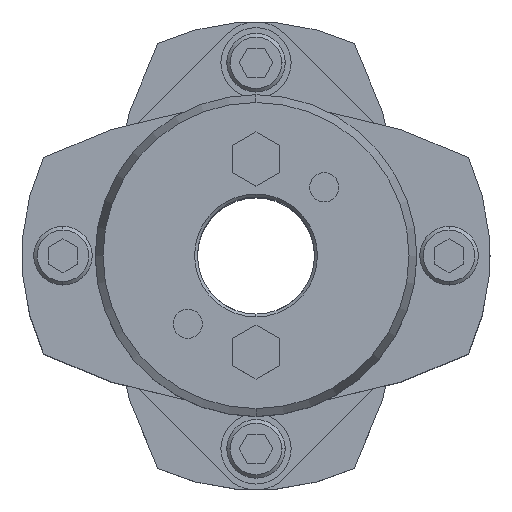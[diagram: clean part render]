
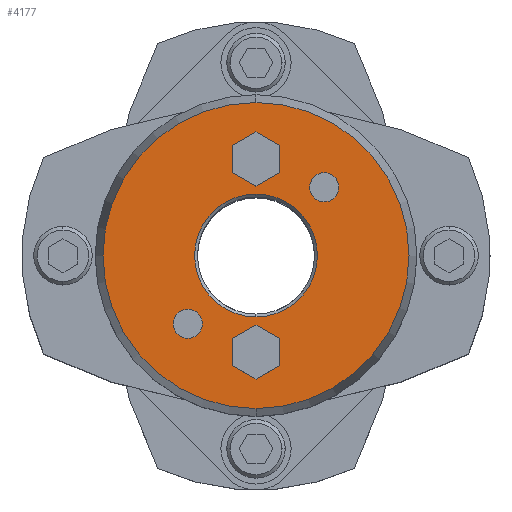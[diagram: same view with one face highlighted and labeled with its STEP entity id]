
A CAD part, top view. The second image highlights one B-rep face of the part: STEP entity #4177.
In plain terms, the highlighted planar face has unit normal (0, 0, 1).
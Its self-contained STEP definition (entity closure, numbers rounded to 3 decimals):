
#2291=CARTESIAN_POINT('',(0.,10.5,45.25));
#2292=VERTEX_POINT('',#2291);
#2308=CARTESIAN_POINT('',(0.,-10.5,45.25));
#2309=VERTEX_POINT('',#2308);
#2316=CARTESIAN_POINT('',(0.,0.,45.25));
#2317=DIRECTION('',(0.0,0.0,1.0));
#2318=DIRECTION('',(0.,1.0,0.0));
#2319=AXIS2_PLACEMENT_3D('',#2316,#2317,#2318);
#2320=CIRCLE('',#2319,10.5);
#2321=EDGE_CURVE('',#2309,#2292,#2320,.T.);
#2479=CARTESIAN_POINT('',(0.,-26.16,45.25));
#2480=VERTEX_POINT('',#2479);
#2487=CARTESIAN_POINT('',(0.,26.16,45.25));
#2488=VERTEX_POINT('',#2487);
#2489=CARTESIAN_POINT('',(0.,0.,45.25));
#2490=DIRECTION('',(0.0,0.0,-1.0));
#2491=DIRECTION('',(0.,-1.0,0.0));
#2492=AXIS2_PLACEMENT_3D('',#2489,#2490,#2491);
#2493=CIRCLE('',#2492,26.16);
#2494=EDGE_CURVE('',#2480,#2488,#2493,.T.);
#2589=CARTESIAN_POINT('',(11.667,14.167,45.25));
#2590=VERTEX_POINT('',#2589);
#2606=CARTESIAN_POINT('',(11.667,9.167,45.25));
#2607=VERTEX_POINT('',#2606);
#2614=CARTESIAN_POINT('',(11.667,11.667,45.25));
#2615=DIRECTION('',(0.0,0.0,-1.0));
#2616=DIRECTION('',(0.,1.0,0.0));
#2617=AXIS2_PLACEMENT_3D('',#2614,#2615,#2616);
#2618=CIRCLE('',#2617,2.5);
#2619=EDGE_CURVE('',#2590,#2607,#2618,.T.);
#2631=CARTESIAN_POINT('',(-11.667,-9.167,45.25));
#2632=VERTEX_POINT('',#2631);
#2648=CARTESIAN_POINT('',(-11.667,-14.167,45.25));
#2649=VERTEX_POINT('',#2648);
#2656=CARTESIAN_POINT('',(-11.667,-11.667,45.25));
#2657=DIRECTION('',(0.0,0.0,-1.0));
#2658=DIRECTION('',(0.,1.0,0.0));
#2659=AXIS2_PLACEMENT_3D('',#2656,#2657,#2658);
#2660=CIRCLE('',#2659,2.5);
#2661=EDGE_CURVE('',#2632,#2649,#2660,.T.);
#3412=CARTESIAN_POINT('',(-11.667,-11.667,45.25));
#3413=DIRECTION('',(0.0,0.0,-1.0));
#3414=DIRECTION('',(0.,1.0,0.0));
#3415=AXIS2_PLACEMENT_3D('',#3412,#3413,#3414);
#3416=CIRCLE('',#3415,2.5);
#3417=EDGE_CURVE('',#2649,#2632,#3416,.T.);
#3446=CARTESIAN_POINT('',(11.667,11.667,45.25));
#3447=DIRECTION('',(0.0,0.0,-1.0));
#3448=DIRECTION('',(0.,1.0,0.0));
#3449=AXIS2_PLACEMENT_3D('',#3446,#3447,#3448);
#3450=CIRCLE('',#3449,2.5);
#3451=EDGE_CURVE('',#2607,#2590,#3450,.T.);
#3489=CARTESIAN_POINT('',(0.,-11.881,45.25));
#3490=VERTEX_POINT('',#3489);
#3497=CARTESIAN_POINT('',(-4.,-14.191,45.25));
#3498=VERTEX_POINT('',#3497);
#3499=CARTESIAN_POINT('',(-4.,-14.191,45.25));
#3500=DIRECTION('',(0.866,0.5,0.0));
#3501=VECTOR('',#3500,4.619);
#3502=LINE('',#3499,#3501);
#3503=EDGE_CURVE('',#3498,#3490,#3502,.T.);
#3527=CARTESIAN_POINT('',(4.,-14.191,45.25));
#3528=VERTEX_POINT('',#3527);
#3535=CARTESIAN_POINT('',(0.,-11.881,45.25));
#3536=DIRECTION('',(0.866,-0.5,0.0));
#3537=VECTOR('',#3536,4.619);
#3538=LINE('',#3535,#3537);
#3539=EDGE_CURVE('',#3490,#3528,#3538,.T.);
#3558=CARTESIAN_POINT('',(4.,-18.809,45.25));
#3559=VERTEX_POINT('',#3558);
#3566=CARTESIAN_POINT('',(4.,-14.191,45.25));
#3567=DIRECTION('',(0.,-1.0,0.0));
#3568=VECTOR('',#3567,4.619);
#3569=LINE('',#3566,#3568);
#3570=EDGE_CURVE('',#3528,#3559,#3569,.T.);
#3589=CARTESIAN_POINT('',(0.,-21.119,45.25));
#3590=VERTEX_POINT('',#3589);
#3597=CARTESIAN_POINT('',(4.,-18.809,45.25));
#3598=DIRECTION('',(-0.866,-0.5,0.0));
#3599=VECTOR('',#3598,4.619);
#3600=LINE('',#3597,#3599);
#3601=EDGE_CURVE('',#3559,#3590,#3600,.T.);
#3620=CARTESIAN_POINT('',(-4.,-18.809,45.25));
#3621=VERTEX_POINT('',#3620);
#3628=CARTESIAN_POINT('',(0.,-21.119,45.25));
#3629=DIRECTION('',(-0.866,0.5,0.0));
#3630=VECTOR('',#3629,4.619);
#3631=LINE('',#3628,#3630);
#3632=EDGE_CURVE('',#3590,#3621,#3631,.T.);
#3650=CARTESIAN_POINT('',(-4.,-18.809,45.25));
#3651=DIRECTION('',(0.,1.0,0.0));
#3652=VECTOR('',#3651,4.619);
#3653=LINE('',#3650,#3652);
#3654=EDGE_CURVE('',#3621,#3498,#3653,.T.);
#3689=CARTESIAN_POINT('',(0.,21.119,45.25));
#3690=VERTEX_POINT('',#3689);
#3697=CARTESIAN_POINT('',(-4.,18.809,45.25));
#3698=VERTEX_POINT('',#3697);
#3699=CARTESIAN_POINT('',(-4.,18.809,45.25));
#3700=DIRECTION('',(0.866,0.5,0.0));
#3701=VECTOR('',#3700,4.619);
#3702=LINE('',#3699,#3701);
#3703=EDGE_CURVE('',#3698,#3690,#3702,.T.);
#3727=CARTESIAN_POINT('',(4.,18.809,45.25));
#3728=VERTEX_POINT('',#3727);
#3735=CARTESIAN_POINT('',(0.,21.119,45.25));
#3736=DIRECTION('',(0.866,-0.5,0.0));
#3737=VECTOR('',#3736,4.619);
#3738=LINE('',#3735,#3737);
#3739=EDGE_CURVE('',#3690,#3728,#3738,.T.);
#3758=CARTESIAN_POINT('',(4.,14.191,45.25));
#3759=VERTEX_POINT('',#3758);
#3766=CARTESIAN_POINT('',(4.,18.809,45.25));
#3767=DIRECTION('',(0.,-1.0,0.0));
#3768=VECTOR('',#3767,4.619);
#3769=LINE('',#3766,#3768);
#3770=EDGE_CURVE('',#3728,#3759,#3769,.T.);
#3789=CARTESIAN_POINT('',(0.,11.881,45.25));
#3790=VERTEX_POINT('',#3789);
#3797=CARTESIAN_POINT('',(4.,14.191,45.25));
#3798=DIRECTION('',(-0.866,-0.5,0.0));
#3799=VECTOR('',#3798,4.619);
#3800=LINE('',#3797,#3799);
#3801=EDGE_CURVE('',#3759,#3790,#3800,.T.);
#3820=CARTESIAN_POINT('',(-4.,14.191,45.25));
#3821=VERTEX_POINT('',#3820);
#3828=CARTESIAN_POINT('',(0.,11.881,45.25));
#3829=DIRECTION('',(-0.866,0.5,0.0));
#3830=VECTOR('',#3829,4.619);
#3831=LINE('',#3828,#3830);
#3832=EDGE_CURVE('',#3790,#3821,#3831,.T.);
#3850=CARTESIAN_POINT('',(-4.,14.191,45.25));
#3851=DIRECTION('',(0.,1.0,0.0));
#3852=VECTOR('',#3851,4.619);
#3853=LINE('',#3850,#3852);
#3854=EDGE_CURVE('',#3821,#3698,#3853,.T.);
#4124=CARTESIAN_POINT('',(0.,0.,45.25));
#4125=DIRECTION('',(0.0,0.0,-1.0));
#4126=DIRECTION('',(0.,-1.0,0.0));
#4127=AXIS2_PLACEMENT_3D('',#4124,#4125,#4126);
#4128=CIRCLE('',#4127,26.16);
#4129=EDGE_CURVE('',#2488,#2480,#4128,.T.);
#4134=CARTESIAN_POINT('',(0.,2.364,45.25));
#4135=DIRECTION('',(0.0,0.0,1.0));
#4136=DIRECTION('',(0.,1.0,0.0));
#4137=AXIS2_PLACEMENT_3D('',#4134,#4135,#4136);
#4138=PLANE('',#4137);
#4139=ORIENTED_EDGE('',*,*,#4129,.F.);
#4140=ORIENTED_EDGE('',*,*,#2494,.F.);
#4141=EDGE_LOOP('',(#4139,#4140));
#4142=FACE_OUTER_BOUND('',#4141,.T.);
#4143=ORIENTED_EDGE('',*,*,#2661,.T.);
#4144=ORIENTED_EDGE('',*,*,#3417,.T.);
#4145=EDGE_LOOP('',(#4143,#4144));
#4146=FACE_BOUND('',#4145,.T.);
#4147=ORIENTED_EDGE('',*,*,#2619,.T.);
#4148=ORIENTED_EDGE('',*,*,#3451,.T.);
#4149=EDGE_LOOP('',(#4147,#4148));
#4150=FACE_BOUND('',#4149,.T.);
#4151=ORIENTED_EDGE('',*,*,#3503,.T.);
#4152=ORIENTED_EDGE('',*,*,#3539,.T.);
#4153=ORIENTED_EDGE('',*,*,#3570,.T.);
#4154=ORIENTED_EDGE('',*,*,#3601,.T.);
#4155=ORIENTED_EDGE('',*,*,#3632,.T.);
#4156=ORIENTED_EDGE('',*,*,#3654,.T.);
#4157=EDGE_LOOP('',(#4151,#4152,#4153,#4154,#4155,#4156));
#4158=FACE_BOUND('',#4157,.T.);
#4159=ORIENTED_EDGE('',*,*,#3703,.T.);
#4160=ORIENTED_EDGE('',*,*,#3739,.T.);
#4161=ORIENTED_EDGE('',*,*,#3770,.T.);
#4162=ORIENTED_EDGE('',*,*,#3801,.T.);
#4163=ORIENTED_EDGE('',*,*,#3832,.T.);
#4164=ORIENTED_EDGE('',*,*,#3854,.T.);
#4165=EDGE_LOOP('',(#4159,#4160,#4161,#4162,#4163,#4164));
#4166=FACE_BOUND('',#4165,.T.);
#4167=ORIENTED_EDGE('',*,*,#2321,.F.);
#4168=CARTESIAN_POINT('',(0.,0.,45.25));
#4169=DIRECTION('',(0.0,0.0,1.0));
#4170=DIRECTION('',(0.,1.0,0.0));
#4171=AXIS2_PLACEMENT_3D('',#4168,#4169,#4170);
#4172=CIRCLE('',#4171,10.5);
#4173=EDGE_CURVE('',#2292,#2309,#4172,.T.);
#4174=ORIENTED_EDGE('',*,*,#4173,.F.);
#4175=EDGE_LOOP('',(#4167,#4174));
#4176=FACE_BOUND('',#4175,.T.);
#4177=ADVANCED_FACE('',(#4142,#4146,#4150,#4158,#4166,#4176),#4138,.T.);
